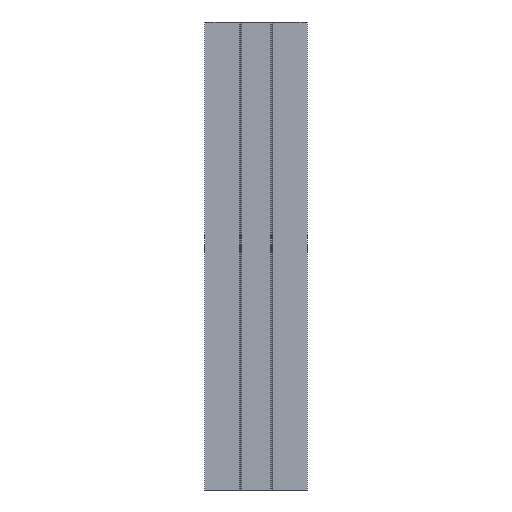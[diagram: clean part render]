
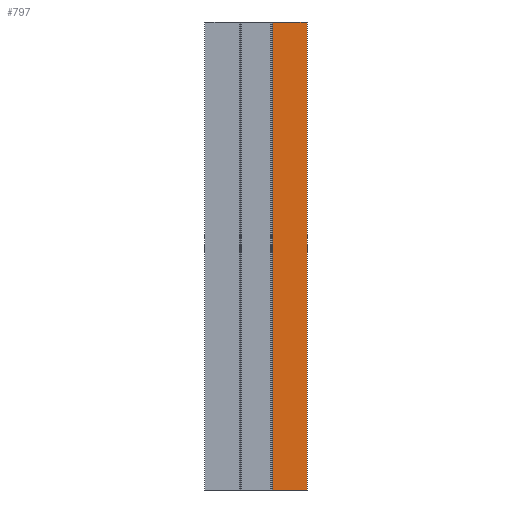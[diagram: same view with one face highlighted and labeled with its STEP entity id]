
A CAD part, front view. The second image highlights one B-rep face of the part: STEP entity #797.
In plain terms, the highlighted planar face has unit normal (0, -1, 0).
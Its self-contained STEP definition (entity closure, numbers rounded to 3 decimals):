
#8 = VERTEX_POINT ( 'NONE', #944 ) ;
#59 = ORIENTED_EDGE ( 'NONE', *, *, #1393, .T. ) ;
#65 = EDGE_LOOP ( 'NONE', ( #341, #59, #605, #202 ) ) ;
#122 = CARTESIAN_POINT ( 'NONE',  ( -129.25, -3., -690. ) ) ;
#188 = CARTESIAN_POINT ( 'NONE',  ( 30.125, -3., 10. ) ) ;
#202 = ORIENTED_EDGE ( 'NONE', *, *, #237, .T. ) ;
#232 = DIRECTION ( 'NONE',  ( -1., 0., 0. ) ) ;
#237 = EDGE_CURVE ( 'NONE', #949, #834, #824, .T. ) ;
#316 = DIRECTION ( 'NONE',  ( 0., 0., 1. ) ) ;
#341 = ORIENTED_EDGE ( 'NONE', *, *, #417, .T. ) ;
#417 = EDGE_CURVE ( 'NONE', #834, #1013, #496, .T. ) ;
#428 = DIRECTION ( 'NONE',  ( 0., 0., -1. ) ) ;
#436 = LINE ( 'NONE', #481, #1258 ) ;
#481 = CARTESIAN_POINT ( 'NONE',  ( -129.25, -3., -1090. ) ) ;
#496 = LINE ( 'NONE', #1348, #539 ) ;
#539 = VECTOR ( 'NONE', #232, 1000. ) ;
#602 = CARTESIAN_POINT ( 'NONE',  ( 110.75, -3., 10. ) ) ;
#605 = ORIENTED_EDGE ( 'NONE', *, *, #923, .T. ) ;
#613 = CARTESIAN_POINT ( 'NONE',  ( 110.75, -3., -1090. ) ) ;
#632 = DIRECTION ( 'NONE',  ( 0., -1., 0. ) ) ;
#635 = AXIS2_PLACEMENT_3D ( 'NONE', #122, #632, #731 ) ;
#663 = CARTESIAN_POINT ( 'NONE',  ( 30.125, -3., -690. ) ) ;
#731 = DIRECTION ( 'NONE',  ( 0., 0., -1. ) ) ;
#777 = VECTOR ( 'NONE', #316, 1000. ) ;
#797 = ADVANCED_FACE ( 'NONE', ( #1461 ), #839, .T. ) ;
#824 = LINE ( 'NONE', #1186, #777 ) ;
#834 = VERTEX_POINT ( 'NONE', #602 ) ;
#839 = PLANE ( 'NONE',  #635 ) ;
#923 = EDGE_CURVE ( 'NONE', #8, #949, #436, .T. ) ;
#944 = CARTESIAN_POINT ( 'NONE',  ( 30.125, -3., -1090. ) ) ;
#949 = VERTEX_POINT ( 'NONE', #613 ) ;
#1013 = VERTEX_POINT ( 'NONE', #188 ) ;
#1186 = CARTESIAN_POINT ( 'NONE',  ( 110.75, -3., -690. ) ) ;
#1258 = VECTOR ( 'NONE', #1551, 1000. ) ;
#1348 = CARTESIAN_POINT ( 'NONE',  ( -129.25, -3., 10. ) ) ;
#1393 = EDGE_CURVE ( 'NONE', #1013, #8, #1544, .T. ) ;
#1448 = VECTOR ( 'NONE', #428, 1000. ) ;
#1461 = FACE_OUTER_BOUND ( 'NONE', #65, .T. ) ;
#1544 = LINE ( 'NONE', #663, #1448 ) ;
#1551 = DIRECTION ( 'NONE',  ( 1., 0., 0. ) ) ;
